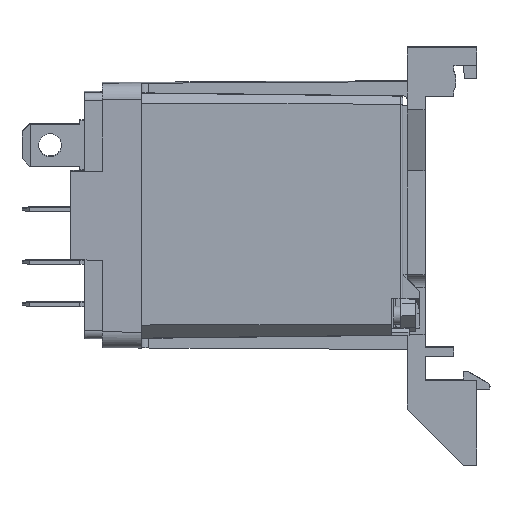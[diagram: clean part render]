
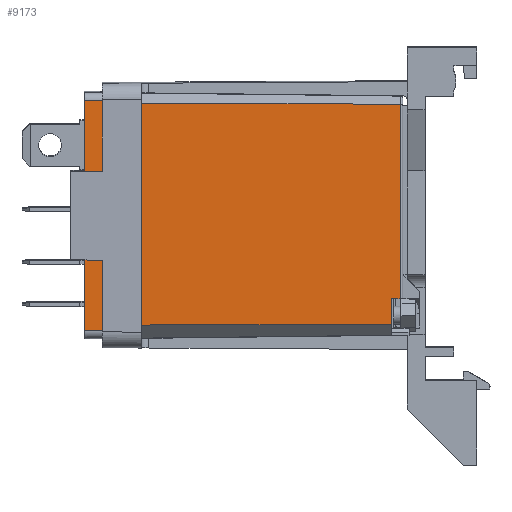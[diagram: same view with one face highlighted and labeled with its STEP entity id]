
A CAD part, top view. The second image highlights one B-rep face of the part: STEP entity #9173.
In plain terms, the highlighted planar face has unit normal (0.011, -0.009, 1).
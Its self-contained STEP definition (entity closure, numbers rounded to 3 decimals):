
#1008=ORIENTED_EDGE('',*,*,#3253,.T.);
#1009=ORIENTED_EDGE('',*,*,#3252,.F.);
#1010=ORIENTED_EDGE('',*,*,#3170,.F.);
#1011=ORIENTED_EDGE('',*,*,#3254,.T.);
#1012=ORIENTED_EDGE('',*,*,#3255,.T.);
#1013=ORIENTED_EDGE('',*,*,#3256,.T.);
#1014=ORIENTED_EDGE('',*,*,#3257,.T.);
#1015=ORIENTED_EDGE('',*,*,#3258,.T.);
#1016=ORIENTED_EDGE('',*,*,#3259,.T.);
#1017=ORIENTED_EDGE('',*,*,#3260,.T.);
#3170=EDGE_CURVE('',#4464,#4465,#5482,.T.);
#3252=EDGE_CURVE('',#4465,#4515,#5559,.T.);
#3253=EDGE_CURVE('',#4516,#4515,#5560,.T.);
#3254=EDGE_CURVE('',#4464,#4517,#5561,.T.);
#3255=EDGE_CURVE('',#4517,#4518,#5562,.T.);
#3256=EDGE_CURVE('',#4518,#4519,#5563,.T.);
#3257=EDGE_CURVE('',#4519,#4520,#5564,.T.);
#3258=EDGE_CURVE('',#4520,#4521,#5565,.T.);
#3259=EDGE_CURVE('',#4521,#4522,#5566,.T.);
#3260=EDGE_CURVE('',#4522,#4516,#5567,.T.);
#4464=VERTEX_POINT('',#14576);
#4465=VERTEX_POINT('',#14578);
#4515=VERTEX_POINT('',#14768);
#4516=VERTEX_POINT('',#14772);
#4517=VERTEX_POINT('',#14774);
#4518=VERTEX_POINT('',#14776);
#4519=VERTEX_POINT('',#14778);
#4520=VERTEX_POINT('',#14780);
#4521=VERTEX_POINT('',#14782);
#4522=VERTEX_POINT('',#14784);
#5482=LINE('',#14577,#6725);
#5559=LINE('',#14769,#6802);
#5560=LINE('',#14771,#6803);
#5561=LINE('',#14773,#6804);
#5562=LINE('',#14775,#6805);
#5563=LINE('',#14777,#6806);
#5564=LINE('',#14779,#6807);
#5565=LINE('',#14781,#6808);
#5566=LINE('',#14783,#6809);
#5567=LINE('',#14785,#6810);
#6725=VECTOR('',#12086,1000.);
#6802=VECTOR('',#12229,1000.);
#6803=VECTOR('',#12232,1000.);
#6804=VECTOR('',#12233,1000.);
#6805=VECTOR('',#12234,1000.);
#6806=VECTOR('',#12235,1000.);
#6807=VECTOR('',#12236,1000.);
#6808=VECTOR('',#12237,1000.);
#6809=VECTOR('',#12238,1000.);
#6810=VECTOR('',#12239,1000.);
#7813=EDGE_LOOP('',(#1008,#1009,#1010,#1011,#1012,#1013,#1014,#1015,#1016,
#1017));
#8316=FACE_BOUND('',#7813,.T.);
#8770=PLANE('',#11120);
#9173=ADVANCED_FACE('LABEL',(#8316),#8770,.T.);
#11120=AXIS2_PLACEMENT_3D('',#14770,#12230,#12231);
#12086=DIRECTION('',(0.,1.,0.009));
#12229=DIRECTION('',(1.,-0.011,-0.012));
#12230=DIRECTION('',(0.012,-0.009,1.));
#12231=DIRECTION('',(0.,1.,0.009));
#12232=DIRECTION('',(0.,1.,0.009));
#12233=DIRECTION('',(1.,0.012,-0.011));
#12234=DIRECTION('',(0.,1.,0.009));
#12235=DIRECTION('',(1.,0.002,-0.012));
#12236=DIRECTION('',(0.,1.,0.009));
#12237=DIRECTION('',(1.,0.,-0.012));
#12238=DIRECTION('',(0.,1.,0.009));
#12239=DIRECTION('',(-1.,0.005,0.012));
#14576=CARTESIAN_POINT('',(-22.574,-32.147,0.289));
#14577=CARTESIAN_POINT('',(-22.574,-32.147,0.289));
#14578=CARTESIAN_POINT('',(-22.574,-6.26,0.515));
#14768=CARTESIAN_POINT('',(-16.674,-6.327,0.446));
#14769=CARTESIAN_POINT('',(-22.574,-6.26,0.515));
#14770=CARTESIAN_POINT('',(13.235,-32.152,-0.124));
#14771=CARTESIAN_POINT('',(-16.674,-6.534,0.445));
#14772=CARTESIAN_POINT('',(-16.674,-6.534,0.445));
#14773=CARTESIAN_POINT('',(-22.574,-32.147,0.289));
#14774=CARTESIAN_POINT('',(-16.674,-32.079,0.222));
#14775=CARTESIAN_POINT('',(-16.674,-32.079,0.222));
#14776=CARTESIAN_POINT('',(-16.674,-31.489,0.227));
#14777=CARTESIAN_POINT('',(-16.674,-31.489,0.227));
#14778=CARTESIAN_POINT('',(11.926,-31.428,-0.102));
#14779=CARTESIAN_POINT('',(11.926,-31.428,-0.102));
#14780=CARTESIAN_POINT('',(11.926,-28.55,-0.077));
#14781=CARTESIAN_POINT('',(11.926,-28.55,-0.077));
#14782=CARTESIAN_POINT('',(12.93,-28.55,-0.089));
#14783=CARTESIAN_POINT('',(12.93,-28.55,-0.089));
#14784=CARTESIAN_POINT('',(12.93,-6.672,0.102));
#14785=CARTESIAN_POINT('',(12.93,-6.672,0.102));
